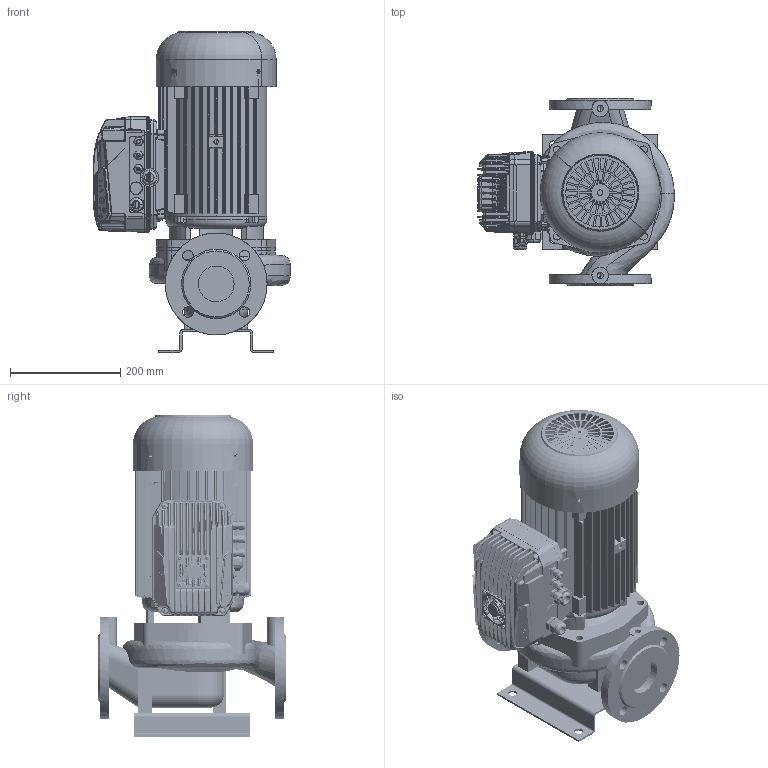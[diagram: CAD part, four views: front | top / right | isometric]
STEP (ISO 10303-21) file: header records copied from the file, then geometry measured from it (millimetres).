
FILE_DESCRIPTION(('STEP AP214'),'1');
FILE_NAME('export.stp','2022-09-07T06:33:57',(' '),(' '),'Spatial InterOp 3D',' ',' ');
FILE_SCHEMA(('AUTOMOTIVE_DESIGN { 1 0 10303 214 1 1 1 1 }'));
Length unit declared in the file: millimetre
Products named in the file (37): W_L65B2MDKP112; V_TLL65AB80A1102; V_PPL65AB; V_JALKA35973; 440017; 440016; V_MKP112F19; 440015___; 440018; 440021; 480022; 480020; 480023; M25_Blind_Plug; M25_tiivisteholkk; MIDA_180deg; BASE_MIDA_NASTEC_89; 3005020100_AF0_157; PRT0001; PRT0002; PRT0003; PRT0005; PRT0006; PRT0007; V4-25--_-_U7687_PZ_AF0_5; V4-25--_-_U7687_PZ_AF1_5; V4-25--_-_U7687_PZ_AF2_5; V4-25--_-_U7687_PZ_AF3_5; V5-30--_-_U7687_PZ_AF0_5; V5-30--_-_U7687_PZ_AF1_5; V5-30--_-_U7687_PZ_AF2_5; V5-30--_-_U7687_PZ_5; 2001300200_32; TASTIERA_MIDA_2_44; ETICHETTA_MIDA_9; TAPPO_PRESSACAVO_M20_5; Mida205
Assembly tree (36 placements, depth 4):
  W_L65B2MDKP112
    V_TLL65AB80A1102
    V_PPL65AB
    V_JALKA35973
    V_MKP112F19
      440017
        440016
      440015___
      440018
      440021
      480022
      480020
      480023
      M25_Blind_Plug
      M25_tiivisteholkk
    Mida205
      MIDA_180deg
        BASE_MIDA_NASTEC_89
        3005020100_AF0_157
        PRT0001
        PRT0002
        PRT0003
        PRT0005
        PRT0006
        PRT0007
        V4-25--_-_U7687_PZ_AF0_5
        V4-25--_-_U7687_PZ_AF1_5
        V4-25--_-_U7687_PZ_AF2_5
        V4-25--_-_U7687_PZ_AF3_5
        V5-30--_-_U7687_PZ_AF0_5
        V5-30--_-_U7687_PZ_AF1_5
        V5-30--_-_U7687_PZ_AF2_5
        V5-30--_-_U7687_PZ_5
        2001300200_32
        TASTIERA_MIDA_2_44
        ETICHETTA_MIDA_9
        TAPPO_PRESSACAVO_M20_5
Bounding box: 358 x 340 x 584.2 mm (x, y, z)
Volume: 7563180.7 mm3; surface area: 1988202.1 mm2
Topology: 31 solids, 32 shells, 5433 faces, 14297 edges, 8951 vertices
Faces by surface type: cylinder 2000, plane 1775, bspline 1168, cone 383, torus 107
Entity records: 297917 total; most frequent: CARTESIAN_POINT 134674, ORIENTED_EDGE 28428, DIRECTION 20165, EDGE_CURVE 14218, VERTEX_POINT 8952, AXIS2_PLACEMENT_3D 7307, EDGE_LOOP 5933, LINE 5551
